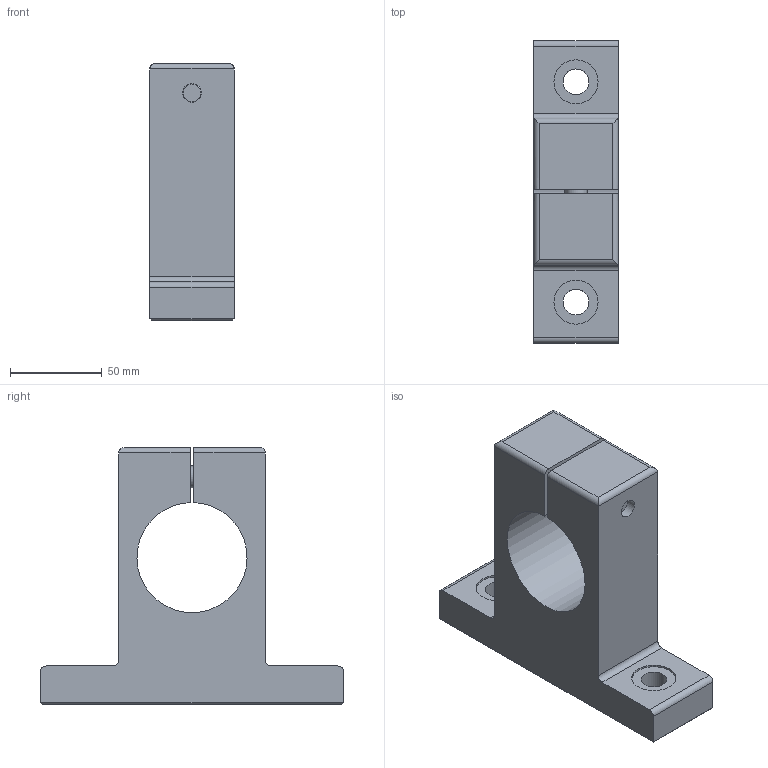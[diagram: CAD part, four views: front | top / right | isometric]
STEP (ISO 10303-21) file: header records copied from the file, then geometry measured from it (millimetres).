
FILE_DESCRIPTION((''),'2;1');
FILE_NAME('D:\製品 (図面)\カタログ用3D\シャフトブロック関連\STEP形式\SB\SB60.stp','2010-06-01T16:20:36',('Tsuchiya'),(''),'Autodesk Inventor 10','Autodesk Inventor 10','');
FILE_SCHEMA(('AUTOMOTIVE_DESIGN { 1 0 10303 214 1 1 1 1 }'));
Length unit declared in the file: millimetre
Products named in the file (1): SB60
Bounding box: 46 x 165 x 140 mm (x, y, z)
Volume: 452310.8 mm3; surface area: 63900.7 mm2
Topology: 1 solids, 1 shells, 52 faces, 123 edges, 79 vertices
Faces by surface type: plane 28, cylinder 17, bspline 4, cone 2, torus 1
Full cylindrical faces by diameter (mm): 12 x1, 14 x2, 18 x1, 24 x2
Entity records: 1474 total; most frequent: CARTESIAN_POINT 303, DIRECTION 238, ORIENTED_EDGE 216, EDGE_CURVE 108, AXIS2_PLACEMENT_3D 87, VERTEX_POINT 76, EDGE_LOOP 76, VECTOR 64
